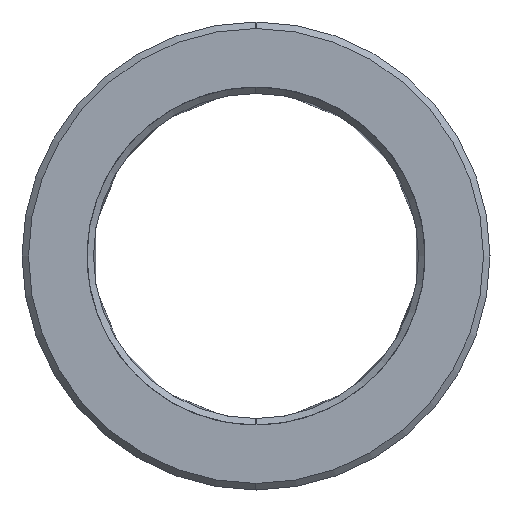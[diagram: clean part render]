
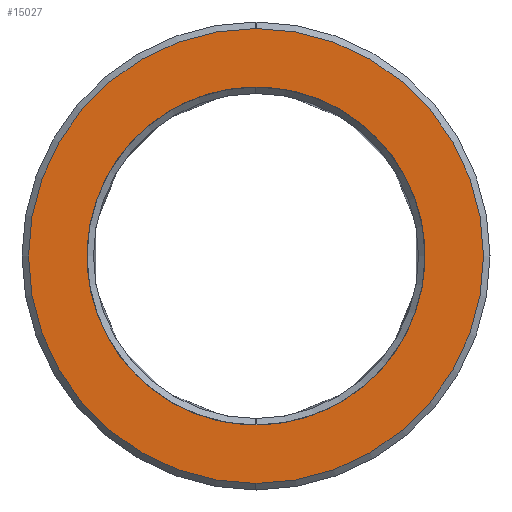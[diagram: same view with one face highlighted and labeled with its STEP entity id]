
A CAD part, left-side view. The second image highlights one B-rep face of the part: STEP entity #15027.
In plain terms, the highlighted planar face has unit normal (1, 0, 0).
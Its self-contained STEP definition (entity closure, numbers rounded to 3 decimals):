
#14944=CARTESIAN_POINT('Axis2P3D Location',(0.,0.,0.)) ;
#14949=CARTESIAN_POINT('Axis2P3D Location',(0.,0.,0.)) ;
#14953=CARTESIAN_POINT('Vertex',(0.,0.,-17.5)) ;
#14955=CARTESIAN_POINT('Vertex',(0.,0.,17.5)) ;
#14958=CARTESIAN_POINT('Axis2P3D Location',(0.,0.,0.)) ;
#14968=CARTESIAN_POINT('Control Point',(0.,0.,13.)) ;
#14969=CARTESIAN_POINT('Control Point',(0.,1.236,13.)) ;
#14970=CARTESIAN_POINT('Control Point',(0.,2.473,12.853)) ;
#14971=CARTESIAN_POINT('Control Point',(0.,3.686,12.559)) ;
#14972=CARTESIAN_POINT('Control Point',(0.,6.019,11.688)) ;
#14973=CARTESIAN_POINT('Control Point',(0.,8.083,10.295)) ;
#14974=CARTESIAN_POINT('Control Point',(0.,9.027,9.478)) ;
#14975=CARTESIAN_POINT('Control Point',(0.,10.702,7.635)) ;
#14976=CARTESIAN_POINT('Control Point',(0.,11.899,5.452)) ;
#14977=CARTESIAN_POINT('Control Point',(0.,12.365,4.293)) ;
#14978=CARTESIAN_POINT('Control Point',(0.,13.011,1.888)) ;
#14979=CARTESIAN_POINT('Control Point',(0.,13.075,-0.601)) ;
#14980=CARTESIAN_POINT('Control Point',(0.,12.958,-1.844)) ;
#14981=CARTESIAN_POINT('Control Point',(0.,12.432,-4.278)) ;
#14982=CARTESIAN_POINT('Control Point',(0.,11.349,-6.521)) ;
#14983=CARTESIAN_POINT('Control Point',(0.,10.676,-7.572)) ;
#14984=CARTESIAN_POINT('Control Point',(0.,9.093,-9.495)) ;
#14985=CARTESIAN_POINT('Control Point',(0.,7.104,-10.993)) ;
#14986=CARTESIAN_POINT('Control Point',(0.,6.025,-11.62)) ;
#14987=CARTESIAN_POINT('Control Point',(0.,4.188,-12.411)) ;
#14988=CARTESIAN_POINT('Control Point',(0.,2.243,-12.838)) ;
#14989=CARTESIAN_POINT('Control Point',(0.,1.499,-12.946)) ;
#14990=CARTESIAN_POINT('Control Point',(0.,0.749,-13.)) ;
#14991=CARTESIAN_POINT('Control Point',(0.,0.,-13.)) ;
#14992=CARTESIAN_POINT('Vertex',(0.,0.,13.)) ;
#14994=CARTESIAN_POINT('Vertex',(0.,0.,-13.)) ;
#14998=CARTESIAN_POINT('Control Point',(0.,0.,-13.)) ;
#14999=CARTESIAN_POINT('Control Point',(0.,-1.236,-13.)) ;
#15000=CARTESIAN_POINT('Control Point',(0.,-2.473,-12.853)) ;
#15001=CARTESIAN_POINT('Control Point',(0.,-3.686,-12.559)) ;
#15002=CARTESIAN_POINT('Control Point',(0.,-6.019,-11.688)) ;
#15003=CARTESIAN_POINT('Control Point',(0.,-8.083,-10.295)) ;
#15004=CARTESIAN_POINT('Control Point',(0.,-9.027,-9.478)) ;
#15005=CARTESIAN_POINT('Control Point',(0.,-10.702,-7.635)) ;
#15006=CARTESIAN_POINT('Control Point',(0.,-11.899,-5.452)) ;
#15007=CARTESIAN_POINT('Control Point',(0.,-12.365,-4.293)) ;
#15008=CARTESIAN_POINT('Control Point',(0.,-13.011,-1.888)) ;
#15009=CARTESIAN_POINT('Control Point',(0.,-13.075,0.601)) ;
#15010=CARTESIAN_POINT('Control Point',(0.,-12.958,1.844)) ;
#15011=CARTESIAN_POINT('Control Point',(0.,-12.432,4.278)) ;
#15012=CARTESIAN_POINT('Control Point',(0.,-11.349,6.521)) ;
#15013=CARTESIAN_POINT('Control Point',(0.,-10.676,7.572)) ;
#15014=CARTESIAN_POINT('Control Point',(0.,-9.093,9.495)) ;
#15015=CARTESIAN_POINT('Control Point',(0.,-7.104,10.993)) ;
#15016=CARTESIAN_POINT('Control Point',(0.,-6.025,11.62)) ;
#15017=CARTESIAN_POINT('Control Point',(0.,-4.188,12.411)) ;
#15018=CARTESIAN_POINT('Control Point',(0.,-2.243,12.838)) ;
#15019=CARTESIAN_POINT('Control Point',(0.,-1.499,12.946)) ;
#15020=CARTESIAN_POINT('Control Point',(0.,-0.749,13.)) ;
#15021=CARTESIAN_POINT('Control Point',(0.,0.,13.)) ;
#14945=DIRECTION('Axis2P3D Direction',(1.,0.,0.)) ;
#14946=DIRECTION('Axis2P3D XDirection',(0.,1.,0.)) ;
#14950=DIRECTION('Axis2P3D Direction',(1.,0.,0.)) ;
#14959=DIRECTION('Axis2P3D Direction',(1.,0.,0.)) ;
#14947=AXIS2_PLACEMENT_3D('Plane Axis2P3D',#14944,#14945,#14946) ;
#14951=AXIS2_PLACEMENT_3D('Circle Axis2P3D',#14949,#14950,$) ;
#14960=AXIS2_PLACEMENT_3D('Circle Axis2P3D',#14958,#14959,$) ;
#14964=ORIENTED_EDGE('',*,*,#14957,.T.) ;
#14965=ORIENTED_EDGE('',*,*,#14962,.T.) ;
#15024=ORIENTED_EDGE('',*,*,#14996,.T.) ;
#15025=ORIENTED_EDGE('',*,*,#15022,.T.) ;
#15026=FACE_BOUND('',#15023,.T.) ;
#15027=ADVANCED_FACE('MANIFOLD_SOLID_BREP #8147',(#14966,#15026),#14948,.T.) ;
#14967=B_SPLINE_CURVE_WITH_KNOTS('',5,(#14968,#14969,#14970,#14971,#14972,#14973,#14974,#14975,#14976,#14977,#14978,#14979,#14980,#14981,#14982,#14983,#14984,#14985,#14986,#14987,#14988,#14989,#14990,#14991),.UNSPECIFIED.,.F.,.U.,(6,3,3,3,3,3,3,6),(0.,8.743,17.486,26.229,34.972,43.715,52.457,57.757),.UNSPECIFIED.) ;
#14997=B_SPLINE_CURVE_WITH_KNOTS('',5,(#14998,#14999,#15000,#15001,#15002,#15003,#15004,#15005,#15006,#15007,#15008,#15009,#15010,#15011,#15012,#15013,#15014,#15015,#15016,#15017,#15018,#15019,#15020,#15021),.UNSPECIFIED.,.F.,.U.,(6,3,3,3,3,3,3,6),(0.,8.743,17.486,26.229,34.972,43.715,52.457,57.757),.UNSPECIFIED.) ;
#14952=CIRCLE('generated circle',#14951,17.5) ;
#14961=CIRCLE('generated circle',#14960,17.5) ;
#14957=EDGE_CURVE('',#14954,#14956,#14952,.T.) ;
#14962=EDGE_CURVE('',#14956,#14954,#14961,.T.) ;
#14996=EDGE_CURVE('',#14993,#14995,#14967,.T.) ;
#15022=EDGE_CURVE('',#14995,#14993,#14997,.T.) ;
#14963=EDGE_LOOP('',(#14964,#14965)) ;
#15023=EDGE_LOOP('',(#15024,#15025)) ;
#14966=FACE_OUTER_BOUND('',#14963,.T.) ;
#14948=PLANE('Plane',#14947) ;
#14954=VERTEX_POINT('',#14953) ;
#14956=VERTEX_POINT('',#14955) ;
#14993=VERTEX_POINT('',#14992) ;
#14995=VERTEX_POINT('',#14994) ;
